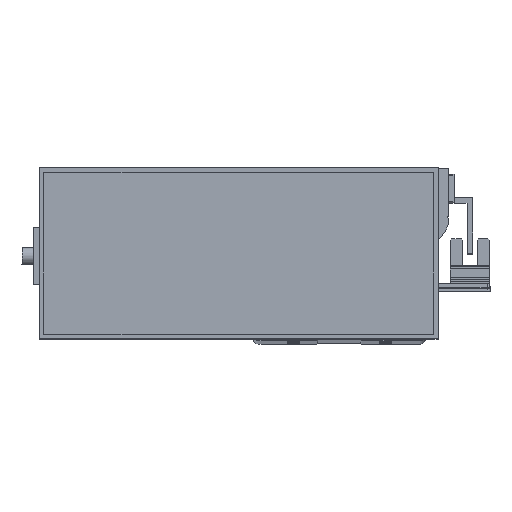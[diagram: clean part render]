
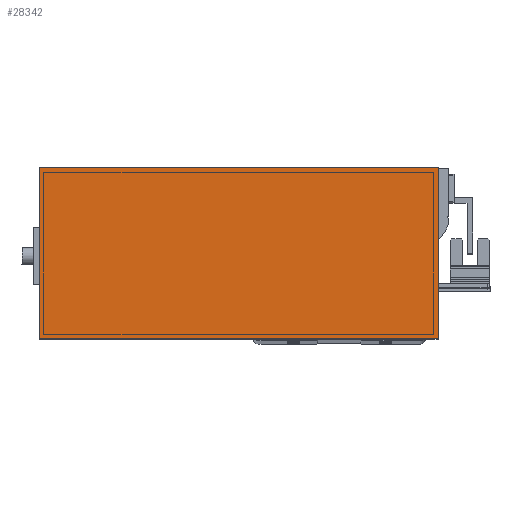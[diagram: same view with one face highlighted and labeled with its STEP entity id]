
A CAD part, top view. The second image highlights one B-rep face of the part: STEP entity #28342.
In plain terms, the highlighted planar face has unit normal (0, 0, 1).
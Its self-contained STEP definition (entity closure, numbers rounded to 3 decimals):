
#409 = ORIENTED_EDGE ( 'NONE', *, *, #21062, .F. ) ;
#942 = FACE_OUTER_BOUND ( 'NONE', #22122, .T. ) ;
#1019 = CARTESIAN_POINT ( 'NONE',  ( 37.874, 16.993, 129.5 ) ) ;
#2885 = LINE ( 'NONE', #17065, #8096 ) ;
#4453 = ORIENTED_EDGE ( 'NONE', *, *, #6888, .F. ) ;
#5823 = EDGE_CURVE ( 'NONE', #20161, #17972, #2885, .T. ) ;
#6304 = VERTEX_POINT ( 'NONE', #14538 ) ;
#6517 = DIRECTION ( 'NONE',  ( 0., 0., -1. ) ) ;
#6888 = EDGE_CURVE ( 'NONE', #17972, #6304, #14060, .T. ) ;
#6998 = EDGE_CURVE ( 'NONE', #31771, #20161, #30382, .T. ) ;
#8096 = VECTOR ( 'NONE', #32209, 1000. ) ;
#8612 = DIRECTION ( 'NONE',  ( 1., 0., 0. ) ) ;
#11261 = DIRECTION ( 'NONE',  ( 0., 1., 0. ) ) ;
#13661 = CARTESIAN_POINT ( 'NONE',  ( -101.126, 76.593, 129.5 ) ) ;
#13865 = CARTESIAN_POINT ( 'NONE',  ( 37.874, 76.593, 129.5 ) ) ;
#14060 = LINE ( 'NONE', #21702, #21714 ) ;
#14327 = CARTESIAN_POINT ( 'NONE',  ( 37.874, 76.593, 129.5 ) ) ;
#14538 = CARTESIAN_POINT ( 'NONE',  ( -101.126, 76.593, 129.5 ) ) ;
#16763 = CARTESIAN_POINT ( 'NONE',  ( -101.126, 76.593, 129.5 ) ) ;
#17065 = CARTESIAN_POINT ( 'NONE',  ( -101.126, 16.993, 129.5 ) ) ;
#17972 = VERTEX_POINT ( 'NONE', #22074 ) ;
#20161 = VERTEX_POINT ( 'NONE', #1019 ) ;
#21062 = EDGE_CURVE ( 'NONE', #6304, #31771, #31319, .T. ) ;
#21408 = ORIENTED_EDGE ( 'NONE', *, *, #5823, .F. ) ;
#21702 = CARTESIAN_POINT ( 'NONE',  ( -101.126, 76.593, 129.5 ) ) ;
#21714 = VECTOR ( 'NONE', #11261, 1000. ) ;
#21911 = PLANE ( 'NONE',  #28364 ) ;
#22074 = CARTESIAN_POINT ( 'NONE',  ( -101.126, 16.993, 129.5 ) ) ;
#22122 = EDGE_LOOP ( 'NONE', ( #25598, #409, #4453, #21408 ) ) ;
#23698 = VECTOR ( 'NONE', #32092, 1000. ) ;
#24462 = DIRECTION ( 'NONE',  ( -1., 0., 0. ) ) ;
#25598 = ORIENTED_EDGE ( 'NONE', *, *, #6998, .F. ) ;
#28342 = ADVANCED_FACE ( 'NONE', ( #942 ), #21911, .F. ) ;
#28364 = AXIS2_PLACEMENT_3D ( 'NONE', #16763, #6517, #24462 ) ;
#30382 = LINE ( 'NONE', #14327, #23698 ) ;
#30526 = VECTOR ( 'NONE', #8612, 1000. ) ;
#31319 = LINE ( 'NONE', #13661, #30526 ) ;
#31771 = VERTEX_POINT ( 'NONE', #13865 ) ;
#32092 = DIRECTION ( 'NONE',  ( 0., -1., 0. ) ) ;
#32209 = DIRECTION ( 'NONE',  ( -1., 0., 0. ) ) ;
